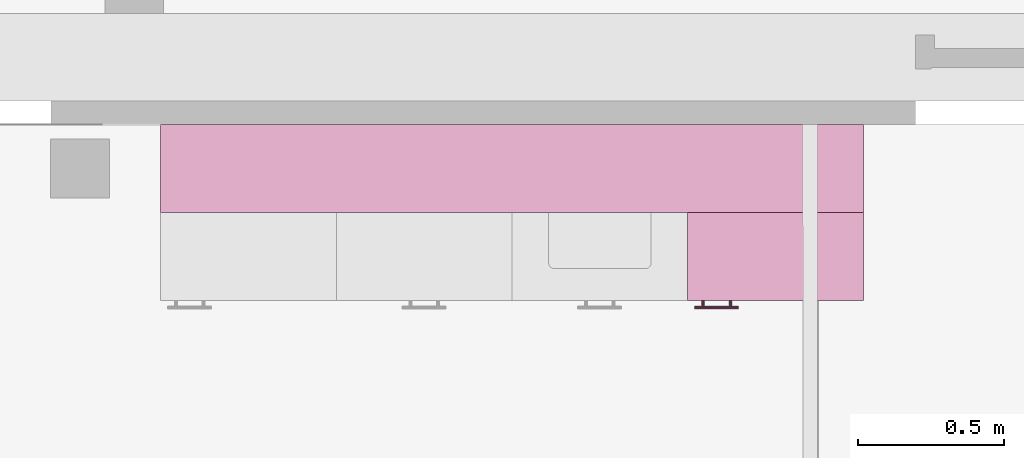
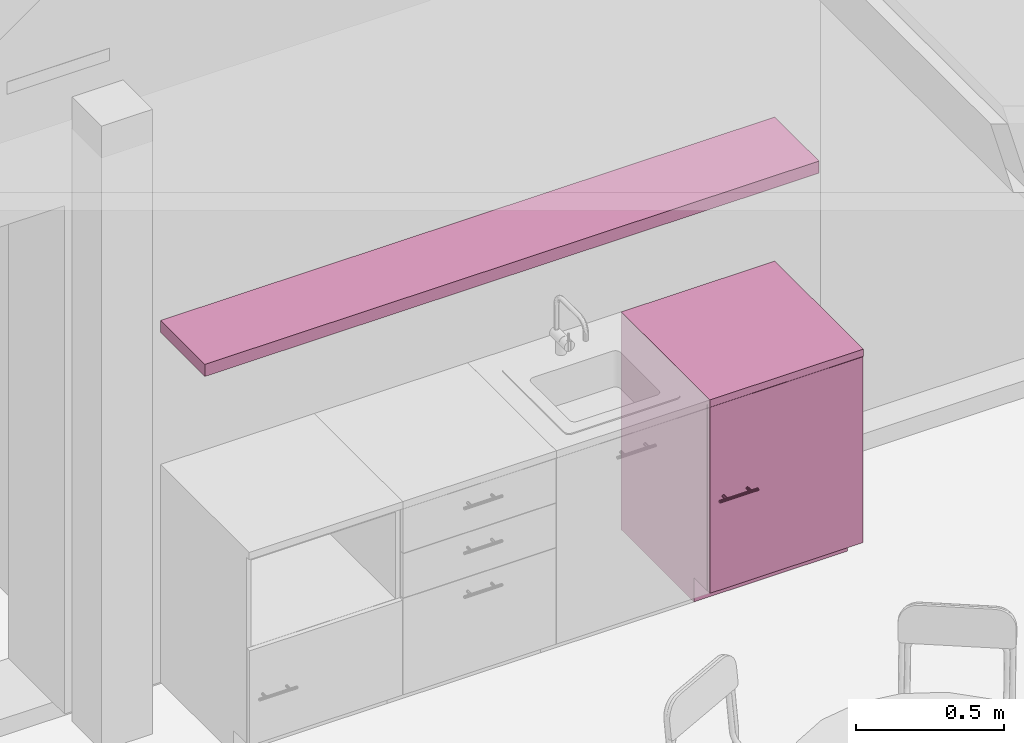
# One storey, part 284 of 301: 2 furnishings.
"""IFC2X3 building model written with IfcOpenShell, lengths in millimetres."""

import ifcopenshell
import ifcopenshell.guid

model = None  # the IFC model being written
_history = None  # IfcOwnerHistory: only IFC2X3 demands one
_inside = {}  # id of a spatial element -> (the spatial element, [elements in it])
_under = {}  # id of a project, library or spatial element -> (it, [spatial elements below it])
_declared = {}  # id of a project -> (the project, [libraries it declares])
_typed = {}  # id of a type object -> (the type object, [elements of that type])
_made_of = {}  # id of a material, layer set ... -> (it, [elements and type objects made of it])


def new_model(schema):
    """Start an empty IFC model of exactly this schema.

    Asked for "IFC4X3", IfcOpenShell would pick the latest addendum, in which some entities
    have other attributes; the version numbers below select the first issue.
    IFC2X3 requires an IfcOwnerHistory on every rooted entity: one is made here for all.
    """
    global model, _history
    if schema == "IFC4X3":
        model = ifcopenshell.file(schema_version=(4, 3, 0, 0))
    else:
        model = ifcopenshell.file(schema=schema)
    _inside.clear()
    _under.clear()
    _declared.clear()
    _typed.clear()
    _made_of.clear()
    _history = None
    if model.schema == "IFC2X3":
        org = make("IfcOrganization", Name="unknown")
        user = make(
            "IfcPersonAndOrganization",
            ThePerson=make("IfcPerson", FamilyName="unknown"),
            TheOrganization=org,
        )
        app = make(
            "IfcApplication",
            ApplicationDeveloper=org,
            Version="unknown",
            ApplicationFullName="unknown",
            ApplicationIdentifier="unknown",
        )
        _history = make(
            "IfcOwnerHistory",
            OwningUser=user,
            OwningApplication=app,
            ChangeAction="ADDED",
            CreationDate=0,
        )
    return model


def make(cls, **values):
    """One entity of the class cls with the attributes given. An attribute that is None is left unset."""
    return model.create_entity(
        cls, **{name: value for name, value in values.items() if value is not None}
    )


def entity(cls, *values):
    """Any entity or typed value of the class cls, its attributes in the order of the schema. None: left unset."""
    e = model.create_entity(cls)
    for i, value in enumerate(values):
        if value is not None:
            e[i] = value
    return e


def rooted(cls, **values):
    """An entity with a GlobalId (a new one), such as an element, a storey or a relation."""
    return make(cls, GlobalId=ifcopenshell.guid.new(), OwnerHistory=_history, **values)


def si_unit(unit_type, name, prefix=None):
    """IfcSIUnit, for example si_unit("LENGTHUNIT", "METRE", prefix="MILLI")."""
    return make("IfcSIUnit", UnitType=unit_type, Prefix=prefix, Name=name)


def converted_unit(unit_type, name, factor, base, dimensions=None, offset=None):
    """IfcConversionBasedUnit, such as the inch: factor (a typed value) times the base unit."""
    return make(
        "IfcConversionBasedUnit"
        if offset is None
        else "IfcConversionBasedUnitWithOffset",
        ConversionOffset=offset,
        Dimensions=None
        if dimensions is None
        else entity("IfcDimensionalExponents", *dimensions),
        UnitType=unit_type,
        Name=name,
        ConversionFactor=make(
            "IfcMeasureWithUnit", ValueComponent=factor, UnitComponent=base
        ),
    )


def derived_unit(unit_type, elements):
    """IfcDerivedUnit: a product of units, each with its exponent."""
    return make(
        "IfcDerivedUnit",
        Elements=[
            make("IfcDerivedUnitElement", Unit=unit, Exponent=power)
            for unit, power in elements
        ],
        UnitType=unit_type,
    )


def money_unit(currency):
    """IfcMonetaryUnit."""
    return make("IfcMonetaryUnit", Currency=currency)


def assignment(units):
    """IfcUnitAssignment: the units of a project."""
    return None if units is None else make("IfcUnitAssignment", Units=units)


def point(xyz):
    """IfcCartesianPoint."""
    return None if xyz is None else make("IfcCartesianPoint", Coordinates=xyz)


def direction(xyz):
    """IfcDirection."""
    return None if xyz is None else make("IfcDirection", DirectionRatios=xyz)


def frame(location, z_axis=None, x_axis=None):
    """IfcAxis2Placement3D, a coordinate frame: its origin and axes. An axis left out is left unset."""
    return make(
        "IfcAxis2Placement3D",
        Location=point(location),
        Axis=direction(z_axis),
        RefDirection=direction(x_axis),
    )


def origin_with_axes():
    """The frame at (0, 0, 0) with the z axis (0, 0, 1) and the x axis (1, 0, 0) written out."""
    return frame((0.0, 0.0, 0.0), z_axis=(0.0, 0.0, 1.0), x_axis=(1.0, 0.0, 0.0))


def place(relative_to, where):
    """IfcLocalPlacement: puts the frame where relative to a parent placement (None: the world)."""
    return make(
        "IfcLocalPlacement", PlacementRelTo=relative_to, RelativePlacement=where
    )


def context(
    kind, dimensions, precision=None, world=None, true_north=None, identifier=None
):
    """IfcGeometricRepresentationContext, for example the 3D "Model" context."""
    return make(
        "IfcGeometricRepresentationContext",
        ContextIdentifier=identifier,
        ContextType=kind,
        CoordinateSpaceDimension=dimensions,
        Precision=precision,
        WorldCoordinateSystem=world,
        TrueNorth=true_north,
    )


def subcontext(parent, identifier, kind, view, scale=None):
    """IfcGeometricRepresentationSubContext, for example "Body" below "Model"."""
    return make(
        "IfcGeometricRepresentationSubContext",
        ContextIdentifier=identifier,
        ContextType=kind,
        ParentContext=parent,
        TargetScale=scale,
        TargetView=view,
    )


def project(units=None, contexts=None):
    """IfcProject with its units and contexts."""
    return rooted(
        "IfcProject",
        Name="project",
        RepresentationContexts=contexts,
        UnitsInContext=assignment(units),
    )


def spatial(cls, under=None, at=None, **own):
    """A site, building, storey or space (cls), placed at a placement, below another one or the project."""
    s = rooted(cls, ObjectPlacement=at, **own)
    if under is not None:
        _under.setdefault(under.id(), (under, []))[1].append(s)
    return s


def faces_of(points, faces, orient=None, outer=None):
    """IfcFace entities. A face is a list of loops; a loop is a list of indices into points, from 0.

    orient and outer hold one flag for each loop. By default every Orientation is true, the
    first loop of a face is its IfcFaceOuterBound and the others are IfcFaceBound.
    """
    made = []
    for i, loops in enumerate(faces):
        bounds = []
        for j, loop in enumerate(loops):
            is_outer = j == 0 if outer is None else outer[i][j]
            bounds.append(
                make(
                    "IfcFaceOuterBound" if is_outer else "IfcFaceBound",
                    Bound=make("IfcPolyLoop", Polygon=[points[k] for k in loop]),
                    Orientation=True if orient is None else orient[i][j],
                )
            )
        made.append(make("IfcFace", Bounds=bounds))
    return made


def faceted_brep(points, faces, orient=None, outer=None, voids=None):
    """IfcFacetedBrep: a solid bounded by flat faces; with voids (closed shells), ...WithVoids."""
    shared = [point(p) for p in points]
    hull = make("IfcClosedShell", CfsFaces=faces_of(shared, faces, orient, outer))
    if voids is None:
        return make("IfcFacetedBrep", Outer=hull)
    return make(
        "IfcFacetedBrepWithVoids",
        Outer=hull,
        Voids=[
            make(cls, CfsFaces=faces_of(shared, fs, o, b)) for cls, fs, o, b in voids
        ],
    )


def shape(context_of_items, identifier, shape_type, items):
    """IfcShapeRepresentation: the items that make up one representation, for example the "Body"."""
    return make(
        "IfcShapeRepresentation",
        ContextOfItems=context_of_items,
        RepresentationIdentifier=identifier,
        RepresentationType=shape_type,
        Items=items,
    )


def material(Name=None, Category=None):
    """IfcMaterial."""
    return make("IfcMaterial", Name=Name, Category=Category)


def made_of(thing, what):
    """Note that an element or type object is made of a material, layer set ...; save() writes the relation."""
    if what is not None:
        _made_of.setdefault(what.id(), (what, []))[1].append(thing)
    return thing


def type_object(cls, material=None, **own):
    """A type object (cls), such as IfcWallType, which elements share."""
    return made_of(rooted(cls, **own), material)


def element(
    cls,
    number,
    at=None,
    inside=None,
    cuts=None,
    type_object=None,
    material=None,
    context=None,
    identifier="Body",
    shape_type=None,
    held_by="IfcProductDefinitionShape",
    body=None,
    shapes=None,
    **own,
):
    """One element of the class cls, such as IfcWall. Its Tag is "e" and its number.

    at: its placement. inside: the storey or other place that contains it. cuts: it is an
    opening in that element (IfcRelVoidsElement). A single representation is given by context,
    identifier, shape_type and body (its items); several are given by shapes. held_by: the class
    of the entity that holds the representations. save() writes the other relations.
    """
    e = rooted(cls, Tag="e%d" % number, ObjectPlacement=at, **own)
    if body is not None:
        shapes = [shape(context, identifier, shape_type, body)]
    if shapes is not None:
        e.Representation = make(held_by, Representations=shapes)
    if inside is not None:
        _inside.setdefault(inside.id(), (inside, []))[1].append(e)
    if cuts is not None:
        rooted(
            "IfcRelVoidsElement", RelatingBuildingElement=cuts, RelatedOpeningElement=e
        )
    if type_object is not None:
        _typed.setdefault(type_object.id(), (type_object, []))[1].append(e)
    return made_of(e, material)


def aggregate(whole, parts):
    """IfcRelAggregates: a whole, such as a stair, and the parts it consists of."""
    return rooted("IfcRelAggregates", RelatingObject=whole, RelatedObjects=parts)


def save(model, path):
    """Write the relations noted so far, then the file.

    IfcRelAggregates (storeys below a building ...), IfcRelContainedInSpatialStructure (elements
    in a storey), IfcRelDefinesByType, IfcRelAssociatesMaterial and IfcRelDeclares: one each for
    every whole, place, type object, material and project.
    """
    for whole, parts in _under.values():
        aggregate(whole, parts)
    for where, things in _inside.values():
        rooted(
            "IfcRelContainedInSpatialStructure",
            RelatedElements=things,
            RelatingStructure=where,
        )
    for kind, things in _typed.values():
        rooted("IfcRelDefinesByType", RelatedObjects=things, RelatingType=kind)
    for what, things in _made_of.values():
        rooted("IfcRelAssociatesMaterial", RelatedObjects=things, RelatingMaterial=what)
    for by, libraries in _declared.values():
        rooted("IfcRelDeclares", RelatingContext=by, RelatedDefinitions=libraries)
    model.write(path)


model = new_model("IFC2X3")

# Units and contexts
model_context = context("Model", 3, precision=0.01, world=origin_with_axes(), true_north=direction((0.0, 1.0)))
body_context = subcontext(model_context, "Body", "Model", "MODEL_VIEW")
ifc_project = project(units=[si_unit("LENGTHUNIT", "METRE", prefix="MILLI"), si_unit("AREAUNIT", "SQUARE_METRE"), si_unit("VOLUMEUNIT", "CUBIC_METRE"), converted_unit("PLANEANGLEUNIT", "DEGREE", entity("IfcPlaneAngleMeasure", 0.0174532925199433), si_unit("PLANEANGLEUNIT", "RADIAN"), dimensions=[0, 0, 0, 0, 0, 0, 0]), money_unit("EUR"), converted_unit("TIMEUNIT", "Year", entity("IfcTimeMeasure", 31557600.0), si_unit("TIMEUNIT", "SECOND"), dimensions=[0, 0, 1, 0, 0, 0, 0]), si_unit("MASSUNIT", "GRAM", prefix="KILO"), si_unit("THERMODYNAMICTEMPERATUREUNIT", "DEGREE_CELSIUS"), si_unit("LUMINOUSINTENSITYUNIT", "LUMEN"), si_unit("ENERGYUNIT", "JOULE", prefix="MEGA"), derived_unit("THERMALCONDUCTANCEUNIT", [(si_unit("POWERUNIT", "WATT"), 1), (si_unit("LENGTHUNIT", "METRE"), -1), (si_unit("THERMODYNAMICTEMPERATUREUNIT", "KELVIN"), -1)]), derived_unit("SPECIFICHEATCAPACITYUNIT", [(si_unit("ENERGYUNIT", "JOULE"), 1), (si_unit("MASSUNIT", "GRAM", prefix="KILO"), -1), (si_unit("THERMODYNAMICTEMPERATUREUNIT", "KELVIN"), -1)]), derived_unit("MASSDENSITYUNIT", [(si_unit("MASSUNIT", "GRAM", prefix="KILO"), 1), (si_unit("VOLUMEUNIT", "CUBIC_METRE"), -1)])], contexts=[model_context])

# Site, building, storey
site_placement = place(None, frame((0.0, 0.0, 8650.0), z_axis=(0.0, 0.0, 1.0), x_axis=(1.0, 0.0, 0.0)))
site = spatial("IfcSite", under=ifc_project, at=site_placement, Name="43301:001:0844", CompositionType="ELEMENT")
building_placement = place(site_placement, origin_with_axes())
building = spatial("IfcBuilding", under=site, at=building_placement, Name="Kuressaare Ametikooli tuulikute mehaanikute õppekorpus", CompositionType="ELEMENT")
storey_placement = place(building_placement, origin_with_axes())
storey = spatial("IfcBuildingStorey", under=building, at=storey_placement, Name="1.korrus", CompositionType="ELEMENT", Elevation=0.0)

# Furnishings
furniture_type_1 = type_object("IfcFurnitureType", Name="Base Cabinet Block 27", AssemblyPlace="NOTDEFINED")
furnishing_1_placement = place(storey_placement, frame((128718.2310410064, 31928.82728576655, 0.0), z_axis=(0.0, 0.0, 1.0), x_axis=(1.0, 0.0, 0.0)))
element("IfcFurnishingElement", 1, at=furnishing_1_placement, inside=storey, type_object=furniture_type_1, Name="KM-2", context=body_context, shape_type="Brep", body=[
    faceted_brep([(0.0, -600.0, 870.0), (0.0, -600.0, 900.0), (-600.0, -600.0, 900.0), (-600.0, -600.0, 870.0), (0.0, 0.0, 870.0), (0.0, 0.0, 900.0), (-600.0, 0.0, 900.0), (-600.0, 0.0, 870.0)], [[[0, 1, 2, 3]], [[4, 5, 1, 0]], [[1, 5, 6, 2]], [[3, 2, 6, 7]], [[0, 3, 7, 4]], [[7, 6, 5, 4]]]),
    faceted_brep([(-552.799038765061, -600.0, 485.1317591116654), (-552.875, -600.0, 486.0), (-552.7990387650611, -600.0, 486.8682408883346), (-552.5734631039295, -600.0, 487.7101007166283), (-552.2051270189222, -600.0, 488.5), (-551.705222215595, -600.0, 489.2139380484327), (-551.0889380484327, -600.0, 489.8302222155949), (-550.375, -600.0, 490.3301270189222), (-549.5851007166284, -600.0, 490.6984631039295), (-548.7432408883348, -600.0, 490.924038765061), (-547.875, -600.0, 491.0), (-547.0067591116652, -600.0, 490.924038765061), (-546.1648992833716, -600.0, 490.6984631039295), (-545.375, -600.0, 490.3301270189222), (-544.6610619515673, -600.0, 489.8302222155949), (-544.044777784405, -600.0, 489.2139380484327), (-543.5448729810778, -600.0, 488.5), (-543.1765368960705, -600.0, 487.7101007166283), (-542.9509612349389, -600.0, 486.8682408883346), (-542.875, -600.0, 486.0), (-542.9509612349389, -600.0, 485.1317591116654), (-543.1765368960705, -600.0, 484.2898992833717), (-543.5448729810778, -600.0, 483.5), (-544.044777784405, -600.0, 482.7860619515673), (-544.6610619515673, -600.0, 482.1697777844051), (-545.375, -600.0, 481.6698729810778), (-546.1648992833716, -600.0, 481.3015368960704), (-547.0067591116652, -600.0, 481.075961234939), (-547.875, -600.0, 481.0), (-548.7432408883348, -600.0, 481.075961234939), (-549.5851007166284, -600.0, 481.3015368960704), (-550.375, -600.0, 481.6698729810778), (-551.0889380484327, -600.0, 482.1697777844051), (-551.705222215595, -600.0, 482.7860619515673), (-552.2051270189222, -600.0, 483.5), (-552.5734631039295, -600.0, 484.2898992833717), (-552.799038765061, -625.0, 485.1317591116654), (-552.875, -625.0, 486.0), (-552.7990387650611, -625.0, 486.8682408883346), (-552.5734631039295, -625.0, 487.7101007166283), (-552.2051270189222, -625.0, 488.5), (-551.705222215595, -625.0, 489.2139380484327), (-551.0889380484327, -625.0, 489.8302222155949), (-550.375, -625.0, 490.3301270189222), (-549.5851007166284, -625.0, 490.6984631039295), (-548.7432408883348, -625.0, 490.924038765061), (-547.875, -625.0, 491.0), (-547.0067591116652, -625.0, 490.924038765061), (-546.1648992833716, -625.0, 490.6984631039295), (-545.375, -625.0, 490.3301270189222), (-544.6610619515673, -625.0, 489.8302222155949), (-544.044777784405, -625.0, 489.2139380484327), (-543.5448729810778, -625.0, 488.5), (-543.1765368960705, -625.0, 487.7101007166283), (-542.9509612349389, -625.0, 486.8682408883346), (-542.875, -625.0, 486.0), (-542.9509612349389, -625.0, 485.1317591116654), (-543.1765368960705, -625.0, 484.2898992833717), (-543.5448729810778, -625.0, 483.5), (-544.044777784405, -625.0, 482.7860619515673), (-544.6610619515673, -625.0, 482.1697777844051), (-545.375, -625.0, 481.6698729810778), (-546.1648992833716, -625.0, 481.3015368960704), (-547.0067591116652, -625.0, 481.075961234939), (-547.875, -625.0, 481.0), (-548.7432408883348, -625.0, 481.075961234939), (-549.5851007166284, -625.0, 481.3015368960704), (-550.375, -625.0, 481.6698729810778), (-551.0889380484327, -625.0, 482.1697777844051), (-551.705222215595, -625.0, 482.7860619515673), (-552.2051270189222, -625.0, 483.5), (-552.5734631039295, -625.0, 484.2898992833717)], [[[0, 1, 2, 3, 4, 5, 6, 7, 8, 9, 10, 11, 12, 13, 14, 15, 16, 17, 18, 19, 20, 21, 22, 23, 24, 25, 26, 27, 28, 29, 30, 31, 32, 33, 34, 35]], [[0, 36, 37, 1]], [[1, 37, 38, 2]], [[2, 38, 39, 3]], [[3, 39, 40, 4]], [[4, 40, 41, 5]], [[5, 41, 42, 6]], [[6, 42, 43, 7]], [[7, 43, 44, 8]], [[8, 44, 45, 9]], [[9, 45, 46, 10]], [[10, 46, 47, 11]], [[11, 47, 48, 12]], [[12, 48, 49, 13]], [[13, 49, 50, 14]], [[14, 50, 51, 15]], [[15, 51, 52, 16]], [[16, 52, 53, 17]], [[17, 53, 54, 18]], [[18, 54, 55, 19]], [[19, 55, 56, 20]], [[20, 56, 57, 21]], [[21, 57, 58, 22]], [[22, 58, 59, 23]], [[23, 59, 60, 24]], [[24, 60, 61, 25]], [[25, 61, 62, 26]], [[26, 62, 63, 27]], [[27, 63, 64, 28]], [[28, 64, 65, 29]], [[29, 65, 66, 30]], [[30, 66, 67, 31]], [[31, 67, 68, 32]], [[32, 68, 69, 33]], [[33, 69, 70, 34]], [[34, 70, 71, 35]], [[35, 71, 36, 0]], [[36, 71, 70, 69, 68, 67, 66, 65, 64, 63, 62, 61, 60, 59, 58, 57, 56, 55, 54, 53, 52, 51, 50, 49, 48, 47, 46, 45, 44, 43, 42, 41, 40, 39, 38, 37]]]),
    faceted_brep([(-449.200961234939, -600.0, 485.1317591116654), (-449.4265368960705, -600.0, 484.2898992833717), (-449.7948729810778, -600.0, 483.5), (-450.2947777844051, -600.0, 482.7860619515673), (-450.9110619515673, -600.0, 482.1697777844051), (-451.625, -600.0, 481.6698729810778), (-452.4148992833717, -600.0, 481.3015368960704), (-453.2567591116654, -600.0, 481.075961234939), (-454.125, -600.0, 481.0), (-454.9932408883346, -600.0, 481.075961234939), (-455.8351007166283, -600.0, 481.3015368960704), (-456.625, -600.0, 481.6698729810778), (-457.3389380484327, -600.0, 482.1697777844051), (-457.9552222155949, -600.0, 482.7860619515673), (-458.4551270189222, -600.0, 483.5), (-458.8234631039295, -600.0, 484.2898992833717), (-459.049038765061, -600.0, 485.1317591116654), (-459.125, -600.0, 486.0), (-459.049038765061, -600.0, 486.8682408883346), (-458.8234631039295, -600.0, 487.7101007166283), (-458.4551270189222, -600.0, 488.5), (-457.9552222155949, -600.0, 489.2139380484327), (-457.3389380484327, -600.0, 489.8302222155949), (-456.625, -600.0, 490.3301270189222), (-455.8351007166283, -600.0, 490.6984631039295), (-454.9932408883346, -600.0, 490.924038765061), (-454.125, -600.0, 491.0), (-453.2567591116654, -600.0, 490.924038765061), (-452.4148992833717, -600.0, 490.6984631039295), (-451.625, -600.0, 490.3301270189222), (-450.9110619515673, -600.0, 489.8302222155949), (-450.2947777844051, -600.0, 489.2139380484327), (-449.7948729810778, -600.0, 488.5), (-449.4265368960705, -600.0, 487.7101007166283), (-449.200961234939, -600.0, 486.8682408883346), (-449.125, -600.0, 486.0), (-449.200961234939, -625.0, 485.1317591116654), (-449.4265368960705, -625.0, 484.2898992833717), (-449.7948729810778, -625.0, 483.5), (-450.2947777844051, -625.0, 482.7860619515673), (-450.9110619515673, -625.0, 482.1697777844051), (-451.625, -625.0, 481.6698729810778), (-452.4148992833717, -625.0, 481.3015368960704), (-453.2567591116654, -625.0, 481.075961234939), (-454.125, -625.0, 481.0), (-454.9932408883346, -625.0, 481.075961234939), (-455.8351007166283, -625.0, 481.3015368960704), (-456.625, -625.0, 481.6698729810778), (-457.3389380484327, -625.0, 482.1697777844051), (-457.9552222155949, -625.0, 482.7860619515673), (-458.4551270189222, -625.0, 483.5), (-458.8234631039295, -625.0, 484.2898992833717), (-459.049038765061, -625.0, 485.1317591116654), (-459.125, -625.0, 486.0), (-459.049038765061, -625.0, 486.8682408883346), (-458.8234631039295, -625.0, 487.7101007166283), (-458.4551270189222, -625.0, 488.5), (-457.9552222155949, -625.0, 489.2139380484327), (-457.3389380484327, -625.0, 489.8302222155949), (-456.625, -625.0, 490.3301270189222), (-455.8351007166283, -625.0, 490.6984631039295), (-454.9932408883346, -625.0, 490.924038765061), (-454.125, -625.0, 491.0), (-453.2567591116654, -625.0, 490.924038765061), (-452.4148992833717, -625.0, 490.6984631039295), (-451.625, -625.0, 490.3301270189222), (-450.9110619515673, -625.0, 489.8302222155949), (-450.2947777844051, -625.0, 489.2139380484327), (-449.7948729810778, -625.0, 488.5), (-449.4265368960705, -625.0, 487.7101007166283), (-449.200961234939, -625.0, 486.8682408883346), (-449.125, -625.0, 486.0)], [[[0, 1, 2, 3, 4, 5, 6, 7, 8, 9, 10, 11, 12, 13, 14, 15, 16, 17, 18, 19, 20, 21, 22, 23, 24, 25, 26, 27, 28, 29, 30, 31, 32, 33, 34, 35]], [[1, 0, 36, 37]], [[2, 1, 37, 38]], [[3, 2, 38, 39]], [[4, 3, 39, 40]], [[5, 4, 40, 41]], [[6, 5, 41, 42]], [[7, 6, 42, 43]], [[8, 7, 43, 44]], [[9, 8, 44, 45]], [[10, 9, 45, 46]], [[11, 10, 46, 47]], [[12, 11, 47, 48]], [[13, 12, 48, 49]], [[14, 13, 49, 50]], [[15, 14, 50, 51]], [[16, 15, 51, 52]], [[17, 16, 52, 53]], [[18, 17, 53, 54]], [[19, 18, 54, 55]], [[20, 19, 55, 56]], [[21, 20, 56, 57]], [[22, 21, 57, 58]], [[23, 22, 58, 59]], [[24, 23, 59, 60]], [[25, 24, 60, 61]], [[26, 25, 61, 62]], [[27, 26, 62, 63]], [[28, 27, 63, 64]], [[29, 28, 64, 65]], [[30, 29, 65, 66]], [[31, 30, 66, 67]], [[32, 31, 67, 68]], [[33, 32, 68, 69]], [[34, 33, 69, 70]], [[35, 34, 70, 71]], [[0, 35, 71, 36]], [[36, 71, 70, 69, 68, 67, 66, 65, 64, 63, 62, 61, 60, 59, 58, 57, 56, 55, 54, 53, 52, 51, 50, 49, 48, 47, 46, 45, 44, 43, 42, 41, 40, 39, 38, 37]]]),
    faceted_brep([(-426.0, -620.075961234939, 485.1317591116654), (-426.0, -620.0, 486.0), (-426.0, -620.0759612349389, 486.8682408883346), (-426.0, -620.3015368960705, 487.7101007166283), (-426.0, -620.6698729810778, 488.5), (-426.0, -621.169777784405, 489.2139380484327), (-426.0, -621.7860619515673, 489.8302222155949), (-426.0, -622.5, 490.3301270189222), (-426.0, -623.2898992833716, 490.6984631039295), (-426.0, -624.1317591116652, 490.924038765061), (-426.0, -625.0, 491.0), (-426.0, -625.8682408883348, 490.924038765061), (-426.0, -626.7101007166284, 490.6984631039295), (-426.0, -627.5, 490.3301270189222), (-426.0, -628.2139380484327, 489.8302222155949), (-426.0, -628.830222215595, 489.2139380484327), (-426.0, -629.3301270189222, 488.5), (-426.0, -629.6984631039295, 487.7101007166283), (-426.0, -629.9240387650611, 486.8682408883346), (-426.0, -630.0, 486.0), (-426.0, -629.9240387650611, 485.1317591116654), (-426.0, -629.6984631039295, 484.2898992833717), (-426.0, -629.3301270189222, 483.5), (-426.0, -628.830222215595, 482.7860619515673), (-426.0, -628.2139380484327, 482.1697777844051), (-426.0, -627.5, 481.6698729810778), (-426.0, -626.7101007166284, 481.3015368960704), (-426.0, -625.8682408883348, 481.075961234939), (-426.0, -625.0, 481.0), (-426.0, -624.1317591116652, 481.075961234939), (-426.0, -623.2898992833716, 481.3015368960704), (-426.0, -622.5, 481.6698729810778), (-426.0, -621.7860619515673, 482.1697777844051), (-426.0, -621.169777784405, 482.7860619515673), (-426.0, -620.6698729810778, 483.5), (-426.0, -620.3015368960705, 484.2898992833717), (-576.0, -620.075961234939, 485.1317591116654), (-576.0, -620.0, 486.0), (-576.0, -620.075961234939, 486.8682408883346), (-576.0, -620.3015368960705, 487.7101007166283), (-576.0, -620.6698729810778, 488.5), (-576.0, -621.169777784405, 489.2139380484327), (-576.0, -621.7860619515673, 489.8302222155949), (-576.0, -622.5, 490.3301270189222), (-576.0, -623.2898992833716, 490.6984631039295), (-576.0, -624.1317591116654, 490.924038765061), (-576.0, -625.0, 491.0), (-576.0, -625.8682408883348, 490.924038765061), (-576.0, -626.7101007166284, 490.6984631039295), (-576.0, -627.5000000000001, 490.3301270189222), (-576.0, -628.2139380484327, 489.8302222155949), (-576.0, -628.830222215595, 489.2139380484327), (-576.0, -629.3301270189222, 488.5), (-576.0, -629.6984631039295, 487.7101007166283), (-576.0, -629.9240387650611, 486.8682408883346), (-576.0, -630.0, 486.0), (-576.0, -629.9240387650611, 485.1317591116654), (-576.0, -629.6984631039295, 484.2898992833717), (-576.0, -629.3301270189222, 483.5), (-576.0, -628.830222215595, 482.7860619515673), (-576.0, -628.2139380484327, 482.1697777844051), (-576.0, -627.5000000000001, 481.6698729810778), (-576.0, -626.7101007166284, 481.3015368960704), (-576.0, -625.8682408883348, 481.075961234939), (-576.0, -625.0, 481.0), (-576.0, -624.1317591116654, 481.075961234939), (-576.0, -623.2898992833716, 481.3015368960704), (-576.0, -622.5, 481.6698729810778), (-576.0, -621.7860619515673, 482.1697777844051), (-576.0, -621.169777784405, 482.7860619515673), (-576.0, -620.6698729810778, 483.5), (-576.0, -620.3015368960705, 484.2898992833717)], [[[0, 1, 2, 3, 4, 5, 6, 7, 8, 9, 10, 11, 12, 13, 14, 15, 16, 17, 18, 19, 20, 21, 22, 23, 24, 25, 26, 27, 28, 29, 30, 31, 32, 33, 34, 35]], [[0, 36, 37, 1]], [[1, 37, 38, 2]], [[2, 38, 39, 3]], [[3, 39, 40, 4]], [[4, 40, 41, 5]], [[5, 41, 42, 6]], [[6, 42, 43, 7]], [[7, 43, 44, 8]], [[8, 44, 45, 9]], [[9, 45, 46, 10]], [[10, 46, 47, 11]], [[11, 47, 48, 12]], [[12, 48, 49, 13]], [[13, 49, 50, 14]], [[14, 50, 51, 15]], [[15, 51, 52, 16]], [[16, 52, 53, 17]], [[17, 53, 54, 18]], [[18, 54, 55, 19]], [[19, 55, 56, 20]], [[20, 56, 57, 21]], [[21, 57, 58, 22]], [[22, 58, 59, 23]], [[23, 59, 60, 24]], [[24, 60, 61, 25]], [[25, 61, 62, 26]], [[26, 62, 63, 27]], [[27, 63, 64, 28]], [[28, 64, 65, 29]], [[29, 65, 66, 30]], [[30, 66, 67, 31]], [[31, 67, 68, 32]], [[32, 68, 69, 33]], [[33, 69, 70, 34]], [[34, 70, 71, 35]], [[35, 71, 36, 0]], [[36, 71, 70, 69, 68, 67, 66, 65, 64, 63, 62, 61, 60, 59, 58, 57, 56, 55, 54, 53, 52, 51, 50, 49, 48, 47, 46, 45, 44, 43, 42, 41, 40, 39, 38, 37]]]),
    faceted_brep([(-1.0, -582.0, 101.0), (-1.0, -600.0, 101.0), (-599.0, -600.0, 101.0), (-599.0, -582.0, 101.0), (-1.0, -582.0, 869.0), (-1.0, -599.9999999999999, 869.0), (-599.0, -599.9999999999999, 869.0), (-599.0, -582.0, 869.0)], [[[0, 1, 2, 3]], [[4, 5, 1, 0]], [[1, 5, 6, 2]], [[3, 2, 6, 7]], [[0, 3, 7, 4]], [[7, 6, 5, 4]]]),
    faceted_brep([(-18.0, -582.0, 100.0), (-18.0, -582.0, 118.0), (-582.0, -582.0, 118.0), (-582.0, -582.0, 100.0), (-18.0, 0.0, 100.0), (-18.0, 0.0, 118.0), (-582.0, 0.0, 118.0), (-582.0, 0.0, 100.0)], [[[0, 1, 2, 3]], [[4, 5, 1, 0]], [[1, 5, 6, 2]], [[3, 2, 6, 7]], [[0, 3, 7, 4]], [[7, 6, 5, 4]]]),
    faceted_brep([(-18.0, -582.0, 852.0), (-582.0, -582.0, 852.0), (-582.0, -522.0, 852.0), (-18.0, -522.0, 852.0), (-18.0, -582.0, 870.0), (-582.0, -582.0, 870.0), (-582.0, -522.0, 870.0), (-18.0, -522.0, 870.0)], [[[0, 1, 2, 3]], [[4, 5, 1, 0]], [[1, 5, 6, 2]], [[3, 2, 6, 7]], [[0, 3, 7, 4]], [[7, 6, 5, 4]]]),
    faceted_brep([(-582.0, 0.0, 852.0), (-18.0, 0.0, 852.0), (-18.0, -60.0, 852.0), (-582.0, -60.0, 852.0), (-582.0, 0.0, 870.0), (-18.0, 0.0, 870.0), (-18.0, -60.0, 870.0), (-582.0, -60.0, 870.0)], [[[0, 1, 2, 3]], [[4, 5, 1, 0]], [[1, 5, 6, 2]], [[3, 2, 6, 7]], [[0, 3, 7, 4]], [[7, 6, 5, 4]]]),
    faceted_brep([(0.0, 0.0, 100.0), (0.0, 0.0, 870.0), (0.0, -582.0, 870.0), (0.0, -582.0, 100.0), (-18.0, 0.0, 100.0), (-18.0, 0.0, 870.0), (-18.0, -582.0, 870.0), (-18.0, -582.0, 100.0)], [[[0, 1, 2, 3]], [[4, 5, 1, 0]], [[1, 5, 6, 2]], [[3, 2, 6, 7]], [[0, 3, 7, 4]], [[7, 6, 5, 4]]]),
    faceted_brep([(-600.0, -582.0, 100.0), (-600.0, -582.0, 870.0), (-600.0, 0.0, 870.0), (-600.0, 0.0, 100.0), (-582.0, -582.0, 100.0), (-582.0, -582.0, 870.0), (-582.0, 0.0, 870.0), (-582.0, 0.0, 100.0)], [[[0, 1, 2, 3]], [[4, 5, 1, 0]], [[1, 5, 6, 2]], [[3, 2, 6, 7]], [[0, 3, 7, 4]], [[7, 6, 5, 4]]]),
    faceted_brep([(-582.0, -9.0, 118.0), (-582.0, -9.0, 852.0), (-18.00000000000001, -9.0, 852.0), (-18.00000000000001, -9.0, 118.0), (-582.0, -18.0, 118.0), (-582.0, -18.0, 852.0), (-18.00000000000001, -18.0, 852.0), (-18.00000000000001, -18.0, 118.0)], [[[0, 1, 2, 3]], [[4, 5, 1, 0]], [[1, 5, 6, 2]], [[3, 2, 6, 7]], [[0, 3, 7, 4]], [[7, 6, 5, 4]]]),
    faceted_brep([(0.0, -492.0, 0.0), (0.0, -492.0, 100.0), (-600.0, -492.0, 100.0), (-600.0, -492.0, 0.0), (0.0, 0.0, 0.0), (0.0, 0.0, 100.0), (-600.0, 0.0, 100.0), (-600.0, 0.0, 0.0)], [[[0, 1, 2, 3]], [[4, 5, 1, 0]], [[1, 5, 6, 2]], [[3, 2, 6, 7]], [[0, 3, 7, 4]], [[7, 6, 5, 4]]]),
])
ifc_material = material(Name="GENEERILINE - KONSTRUKTRIOON")
furniture_type_2 = type_object("IfcFurnitureType", Name="GENEERILINE - KONSTRUKTRIOON 50", AssemblyPlace="NOTDEFINED")
furnishing_2_placement = place(storey_placement, frame((126318.2310410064, 31928.82728576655, 1445.0), z_axis=(0.0, 0.0, 1.0), x_axis=(1.0, 0.0, 0.0)))
element("IfcFurnishingElement", 2, at=furnishing_2_placement, inside=storey, type_object=furniture_type_2, material=ifc_material, Name="tasapind", context=body_context, shape_type="Brep", body=[
    faceted_brep([(0.0, 0.0, 50.00000000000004), (0.0, 0.0, 0.0), (0.0, -300.0000000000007, 0.0), (0.0, -300.0000000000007, 50.00000000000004), (2399.999999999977, 0.0, 50.00000000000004), (2399.999999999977, 0.0, 0.0), (2399.999999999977, -300.0000000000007, 0.0), (2399.999999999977, -300.0000000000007, 50.00000000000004)], [[[0, 1, 2, 3]], [[4, 5, 1, 0]], [[2, 1, 5, 6]], [[3, 2, 6, 7]], [[4, 0, 3, 7]], [[7, 6, 5, 4]]]),
])

save(model, "model.ifc")
